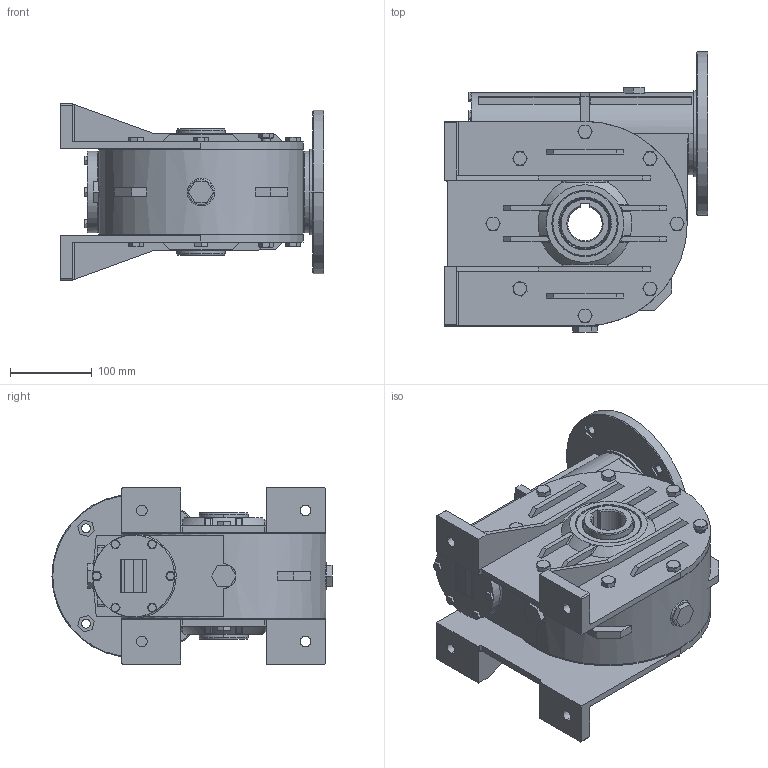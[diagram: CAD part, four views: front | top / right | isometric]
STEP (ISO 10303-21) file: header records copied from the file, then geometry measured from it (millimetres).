
FILE_DESCRIPTION (( 'STEP AP203' ), '1' );
FILE_NAME ('3F002371.STEP', '2012-07-24T06:06:45', ( 'Amministratore' ), ( 'SerteK sas' ), 'SwSTEP 2.0', 'SolidWorks 2009', '' );
FILE_SCHEMA (( 'CONFIG_CONTROL_DESIGN' ));
Products named in the file (1): 3F002371
Bounding box: 322 x 342.5 x 215.3 mm (x, y, z)
Surface area: 976819.2 mm2 (no closed solid volume)
Topology: 0 solids, 42 shells, 2294 faces, 5695 edges, 3528 vertices
Faces by surface type: plane 795, cylinder 751, bspline 378, cone 370
Entity records: 96779 total; most frequent: CARTESIAN_POINT 44078, ORIENTED_EDGE 11186, DIRECTION 10853, EDGE_CURVE 5605, AXIS2_PLACEMENT_3D 4233, VERTEX_POINT 3524, EDGE_LOOP 2513, VECTOR 2387
